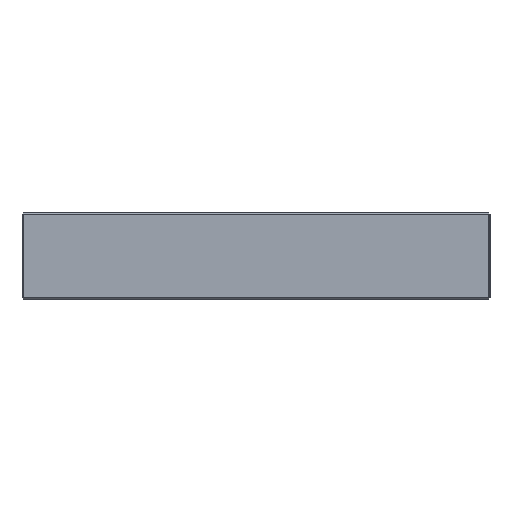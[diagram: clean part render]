
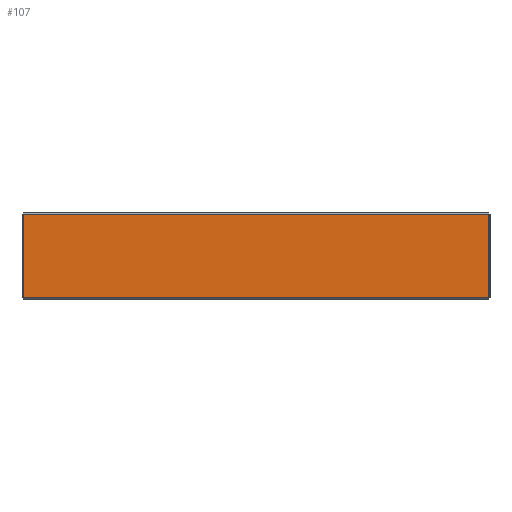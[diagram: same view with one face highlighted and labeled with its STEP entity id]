
A CAD part, left-side view. The second image highlights one B-rep face of the part: STEP entity #107.
In plain terms, the highlighted planar face has unit normal (-1, 0, 0).
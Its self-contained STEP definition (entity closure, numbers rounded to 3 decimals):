
#65 = EDGE_CURVE ( 'NONE', #1024, #1180, #3442, .T. ) ;
#96 = ORIENTED_EDGE ( 'NONE', *, *, #2216, .T. ) ;
#107 = ADVANCED_FACE ( 'NONE', ( #1306 ), #1213, .F. ) ;
#363 = CARTESIAN_POINT ( 'NONE',  ( -45., 45., 0.3 ) ) ;
#421 = VECTOR ( 'NONE', #3806, 1000. ) ;
#587 = EDGE_CURVE ( 'NONE', #3295, #3196, #1346, .T. ) ;
#742 = CARTESIAN_POINT ( 'NONE',  ( -45., 45., 17.7 ) ) ;
#895 = CARTESIAN_POINT ( 'NONE',  ( -45., 45., 18. ) ) ;
#904 = ORIENTED_EDGE ( 'NONE', *, *, #2828, .T. ) ;
#974 = ORIENTED_EDGE ( 'NONE', *, *, #587, .T. ) ;
#1024 = VERTEX_POINT ( 'NONE', #1448 ) ;
#1106 = EDGE_LOOP ( 'NONE', ( #904, #974, #96, #1214 ) ) ;
#1172 = AXIS2_PLACEMENT_3D ( 'NONE', #895, #3664, #3365 ) ;
#1180 = VERTEX_POINT ( 'NONE', #3339 ) ;
#1213 = PLANE ( 'NONE',  #1172 ) ;
#1214 = ORIENTED_EDGE ( 'NONE', *, *, #65, .T. ) ;
#1306 = FACE_OUTER_BOUND ( 'NONE', #1106, .T. ) ;
#1346 = LINE ( 'NONE', #363, #3008 ) ;
#1448 = CARTESIAN_POINT ( 'NONE',  ( -45., -52.017, 17.7 ) ) ;
#1465 = VECTOR ( 'NONE', #2133, 1000. ) ;
#1752 = VECTOR ( 'NONE', #4322, 1000. ) ;
#1755 = DIRECTION ( 'NONE',  ( 0., -1., 0. ) ) ;
#1940 = CARTESIAN_POINT ( 'NONE',  ( -45., -52.017, 0.3 ) ) ;
#2133 = DIRECTION ( 'NONE',  ( 0., 1., 0. ) ) ;
#2187 = LINE ( 'NONE', #4236, #1752 ) ;
#2216 = EDGE_CURVE ( 'NONE', #3196, #1024, #2187, .T. ) ;
#2789 = CARTESIAN_POINT ( 'NONE',  ( -45., 44.7, 0.3 ) ) ;
#2828 = EDGE_CURVE ( 'NONE', #1180, #3295, #4403, .T. ) ;
#3008 = VECTOR ( 'NONE', #1755, 1000. ) ;
#3196 = VERTEX_POINT ( 'NONE', #1940 ) ;
#3295 = VERTEX_POINT ( 'NONE', #2789 ) ;
#3339 = CARTESIAN_POINT ( 'NONE',  ( -45., 44.7, 17.7 ) ) ;
#3365 = DIRECTION ( 'NONE',  ( 0., 1., 0. ) ) ;
#3442 = LINE ( 'NONE', #742, #1465 ) ;
#3664 = DIRECTION ( 'NONE',  ( 1., 0., 0. ) ) ;
#3806 = DIRECTION ( 'NONE',  ( 0., 0., -1. ) ) ;
#4202 = CARTESIAN_POINT ( 'NONE',  ( -45., 44.7, 18. ) ) ;
#4236 = CARTESIAN_POINT ( 'NONE',  ( -45., -52.017, 18. ) ) ;
#4322 = DIRECTION ( 'NONE',  ( 0., 0., 1. ) ) ;
#4403 = LINE ( 'NONE', #4202, #421 ) ;
